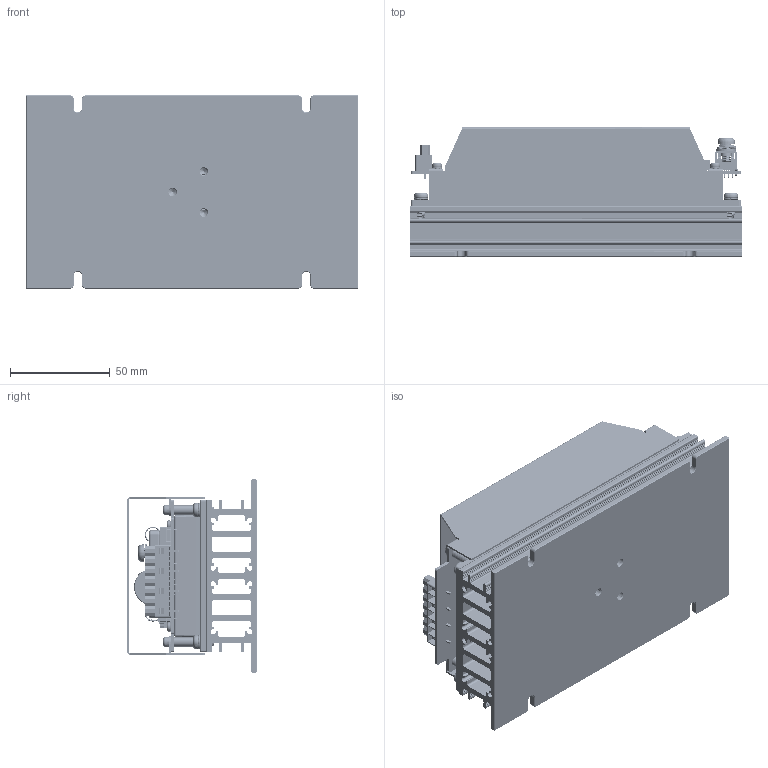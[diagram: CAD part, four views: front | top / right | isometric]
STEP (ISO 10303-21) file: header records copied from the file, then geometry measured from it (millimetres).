
FILE_DESCRIPTION (( 'STEP AP203' ), '1' );
FILE_NAME ('CHB300-300S CMFD HS 12V,24V,28V,48V 2024.04.26.STEP', '2024-04-26T09:17:24', ( '' ), ( '' ), 'SwSTEP 2.0', 'SolidWorks 2020', '' );
FILE_SCHEMA (( 'CONFIG_CONTROL_DESIGN' ));
Length unit declared in the file: millimetre
Products named in the file (1): CHB300-300S CMFD HS 12V,24V,28V,48V 2024.04.26
Bounding box: 166 x 64.9 x 96.52 mm (x, y, z)
Volume: 304385 mm3; surface area: 215162.1 mm2
Topology: 12 solids, 42 shells, 3145 faces, 10953 edges, 7191 vertices
Faces by surface type: plane 1710, cylinder 874, bspline 306, cone 133, torus 83, sphere 39
Full cylindrical faces by diameter (mm): 0.7 x16, 0.78 x2, 0.8 x4, 1 x13, 1.2 x5, 1.5 x2, 2 x5, 2.2 x8, 2.9 x8, 3 x7, 3.2 x10, 3.239 x3, 3.25 x1, 3.264 x1, 3.8 x4, 3.9 x27, 4 x5, 4.2 x4, 4.3 x4, 4.45 x4, 4.5 x4, 4.6 x4, 4.7 x8, 5 x12, 5.3 x2, 5.5 x2, 7 x4, 10 x2, 12 x1, 12.8 x1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
Entity records: 250824 total; most frequent: CARTESIAN_POINT 165877, ORIENTED_EDGE 20814, DIRECTION 13965, EDGE_CURVE 10407, VERTEX_POINT 7001, LINE 4843, VECTOR 4843, AXIS2_PLACEMENT_3D 4561
